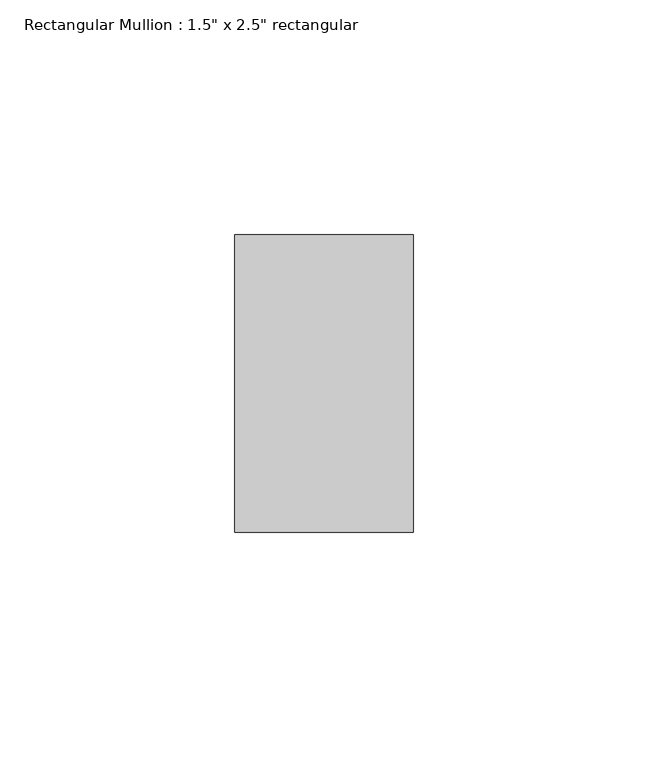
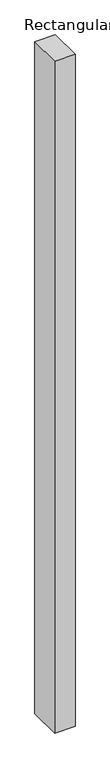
"""IFC4 building model written with IfcOpenShell, lengths in millimetres: member geometry."""

from ifc_helpers import new_model, si_unit, frame, origin, place, context, project, spatial, polyline, outline, extrude, source, transform, mapped, element, save


def member_1e49c14f(model_context):
    return source(origin(), model_context, "Body", "SweptSolid", [
        extrude(outline(polyline([(19.05, 31.75), (19.05, -31.75), (-19.05, -31.75), (-19.05, 31.75), (19.05, 31.75)])), frame((0.0, 0.0, -1322.0661325), z_axis=(0.0, 0.0, 1.0), x_axis=(1.0, 0.0, 0.0)), (0.0, 0.0, 1.0), 1322.0661325),
    ])


if __name__ == "__main__":
    model = new_model("IFC4")
    model_context = context("Model", 3, world=origin())
    ifc_project = project(units=[si_unit("LENGTHUNIT", "METRE", prefix="MILLI")], contexts=[model_context])
    site = spatial("IfcSite", under=ifc_project)
    building = spatial("IfcBuilding", under=site)
    placement = place(None, origin())
    member_shape = member_1e49c14f(model_context)
    element("IfcMember", 1, ObjectType="Rectangular Mullion : 1.5\" x 2.5\" rectangular", at=placement, inside=building, context=model_context, shape_type="MappedRepresentation", body=[
        mapped(member_shape, transform((0.0, 0.0, 0.0), x_axis=(1.0, 0.0, 0.0), y_axis=(0.0, 1.0, 0.0), z_axis=(0.0, 0.0, 1.0))),
    ])
    save(model, "model.ifc")
